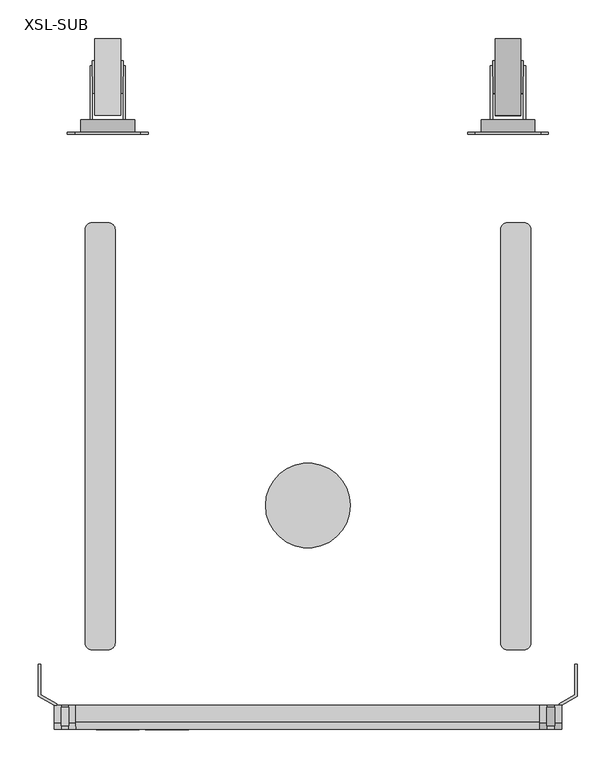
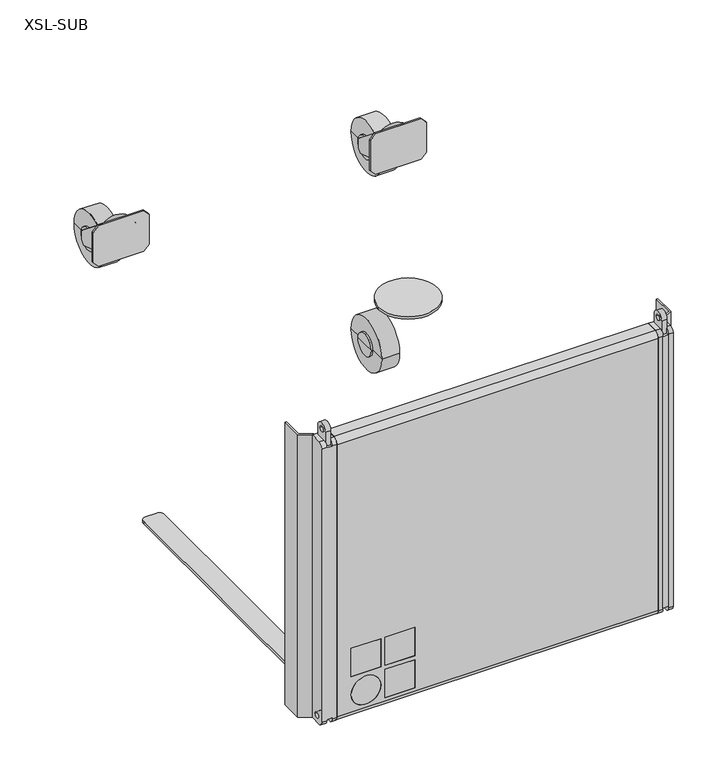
"""IFC4 building model written with IfcOpenShell, lengths in millimetres: proxy geometry, d&b SL-Series XSL-SUB : XSL-SUB."""

from ifc_helpers import new_model, si_unit, point, frame, frame_2d, origin, origin_with_axes, place, context, project, spatial, polyline, circle_curve, trimmed, segment, composite_curve, outline, extrude, source, transform, mapped, element, save
from ifc_brep_helpers import plane_surface, cylinder_surface, revolved_surface, advanced_brep


def xsl_sub_1e621e3c(model_context):
    return source(origin(), model_context, "Body", "SolidModel", [
        advanced_brep(
        [(2743.3232422, 736.9067763, 49.9678867), (2743.3232422, 836.9067763, 49.9678867), (2776.6767578, 836.9067763, 49.9678867), (2776.6767578, 736.9067763, 49.9678867), (2743.3232422, 765.493179, 49.9678867), (2743.3232422, 808.3203735, 49.9678867), (2740.0, 765.493179, 49.9678867), (2740.0, 808.3203735, 49.9678867), (2740.0, 786.9067763, 49.9678867), (2780.0, 765.493179, 49.9678867), (2780.0, 808.3203735, 49.9678867), (2780.0, 786.9067763, 49.9678867), (2776.6767578, 765.493179, 49.9678867), (2776.6767578, 808.3203735, 49.9678867)],
        [
            (0, 1, circle_curve(frame((2743.3232422, 786.9067763, 49.9678867), z_axis=(1.0, 0.0, 0.0), x_axis=(0.0, 1.0, 0.0)), 50.0)),
            (1, 2),
            (2, 3, circle_curve(frame((2776.6767578, 786.9067763, 49.9678867), z_axis=(-1.0, 0.0, 0.0), x_axis=(0.0, 1.0, 0.0)), 50.0)),
            (3, 0),
            (1, 0, circle_curve(frame((2743.3232422, 786.9067763, 49.9678867), z_axis=(1.0, 0.0, 0.0), x_axis=(0.0, 1.0, 0.0)), 50.0)),
            (3, 2, circle_curve(frame((2776.6767578, 786.9067763, 49.9678867), z_axis=(-1.0, 0.0, 0.0), x_axis=(0.0, 1.0, 0.0)), 50.0)),
            (4, 5, circle_curve(frame((2743.3232422, 786.9067763, 49.9678867), z_axis=(1.0, 0.0, 0.0), x_axis=(0.0, 1.0, 0.0)), 21.4135972)),
            (5, 1),
            (0, 4),
            (5, 4, circle_curve(frame((2743.3232422, 786.9067763, 49.9678867), z_axis=(1.0, 0.0, 0.0), x_axis=(0.0, 1.0, 0.0)), 21.4135972)),
            (6, 7, circle_curve(frame((2740.0, 786.9067763, 49.9678867), z_axis=(1.0, 0.0, 0.0), x_axis=(0.0, 1.0, 0.0)), 21.4135972)),
            (7, 5),
            (4, 6),
            (7, 6, circle_curve(frame((2740.0, 786.9067763, 49.9678867), z_axis=(1.0, 0.0, 0.0), x_axis=(0.0, 1.0, 0.0)), 21.4135972)),
            (8, 7),
            (6, 8),
            (9, 10, circle_curve(frame((2780.0, 786.9067763, 49.9678867), z_axis=(1.0, 0.0, 0.0), x_axis=(0.0, 1.0, 0.0)), 21.4135972)),
            (10, 11),
            (11, 9),
            (10, 9, circle_curve(frame((2780.0, 786.9067763, 49.9678867), z_axis=(1.0, 0.0, 0.0), x_axis=(0.0, 1.0, 0.0)), 21.4135972)),
            (12, 13, circle_curve(frame((2776.6767578, 786.9067763, 49.9678867), z_axis=(1.0, 0.0, 0.0), x_axis=(0.0, 1.0, 0.0)), 21.4135972)),
            (13, 10),
            (9, 12),
            (13, 12, circle_curve(frame((2776.6767578, 786.9067763, 49.9678867), z_axis=(1.0, 0.0, 0.0), x_axis=(0.0, 1.0, 0.0)), 21.4135972)),
            (2, 13),
            (12, 3),
        ],
        [
            cylinder_surface(frame((2717.0567457, 786.9067763, 49.9678867), z_axis=(-1.0, 0.0, 0.0), x_axis=(0.0, 1.0, 0.0)), 50.0),
            plane_surface(frame((2743.3232422, 786.9067763, 49.9678867), z_axis=(-1.0, 0.0, 0.0), x_axis=(0.0, 1.0, 0.0))),
            cylinder_surface(frame((2717.0567457, 786.9067763, 49.9678867), z_axis=(-1.0, 0.0, 0.0), x_axis=(0.0, 1.0, 0.0)), 21.4135972),
            plane_surface(frame((2740.0, 786.9067763, 49.9678867), z_axis=(-1.0, 0.0, 0.0), x_axis=(0.0, 1.0, 0.0))),
            plane_surface(frame((2780.0, 786.9067763, 49.9678867), z_axis=(1.0, 0.0, 0.0), x_axis=(0.0, 1.0, 0.0))),
            plane_surface(frame((2776.6767578, 786.9067763, 49.9678867), z_axis=(1.0, 0.0, 0.0), x_axis=(0.0, 1.0, 0.0))),
        ],
        [
            (0, [[1, 2, 3, 4]]),
            (0, [[5, -4, 6, -2]]),
            (1, [[7, 8, -1, 9]]),
            (1, [[10, -9, -5, -8]]),
            (2, [[11, 12, -7, 13]]),
            (2, [[14, -13, -10, -12]]),
            (3, [[15, -11, 16]]),
            (3, [[-16, -14, -15]]),
            (4, [[17, 18, 19]]),
            (4, [[20, -19, -18]]),
            (2, [[21, 22, -17, 23]]),
            (2, [[24, -23, -20, -22]]),
            (5, [[-3, 25, -21, 26]]),
            (5, [[-6, -26, -24, -25]]),
        ],
    ),
        advanced_brep(
        [(2275.0, 731.2505973, 480.499962), (2263.0, 731.2505973, 454.1181501), (2263.0, 731.2505973, 506.5781491), (2260.0, 731.2505973, 506.5781491), (2260.0, 731.2505973, 451.7771488), (2220.0, 731.2505973, 451.7771488), (2220.0, 731.2505973, 506.5781491), (2217.0, 731.2505973, 506.5781491), (2217.0, 731.2505973, 454.1181501), (2205.0, 731.2505973, 480.499962), (2205.0, 715.2505973, 480.499962), (2217.0, 715.2505973, 454.1181501), (2217.0, 715.2505973, 445.67524), (2220.0, 715.2505973, 445.67524), (2220.0, 715.2505973, 451.7771488), (2260.0, 715.2505973, 451.7771488), (2260.0, 715.2505973, 445.67524), (2263.0, 715.2505973, 445.67524), (2263.0, 715.2505973, 454.1181501), (2275.0, 715.2505973, 480.499962), (2263.0, 729.9505973, 445.67524), (2263.0, 794.4505973, 425.499962), (2263.0, 801.4505973, 432.499962), (2263.0, 801.4505973, 450.6264244), (2260.0, 801.4505973, 450.6264244), (2260.0, 801.4505973, 432.499962), (2260.0, 794.4505973, 425.499962), (2260.0, 729.9505973, 445.67524), (2217.0, 801.4505973, 450.6264244), (2217.0, 801.4505973, 432.499962), (2217.0, 794.4505973, 425.499962), (2217.0, 729.9505973, 445.67524), (2220.0, 729.9505973, 445.67524), (2220.0, 794.4505973, 425.499962), (2220.0, 801.4505973, 432.499962), (2220.0, 801.4505973, 450.6264244)],
        [
            (0, 1, circle_curve(frame((2240.0, 731.2505973, 480.499962), z_axis=(0.0, 1.0, 0.0), x_axis=(1.0, 0.0, 0.0)), 35.0)),
            (1, 2),
            (2, 3),
            (3, 4),
            (4, 5, circle_curve(frame((2240.0, 731.2505973, 480.499962), z_axis=(0.0, 1.0, 0.0), x_axis=(1.0, 0.0, 0.0)), 35.0)),
            (5, 6),
            (6, 7),
            (7, 8),
            (8, 9, circle_curve(frame((2240.0, 731.2505973, 480.499962), z_axis=(0.0, 1.0, 0.0), x_axis=(1.0, 0.0, 0.0)), 35.0)),
            (9, 0, circle_curve(frame((2240.0, 731.2505973, 480.499962), z_axis=(0.0, 1.0, 0.0), x_axis=(1.0, 0.0, 0.0)), 35.0)),
            (10, 11, circle_curve(frame((2240.0, 715.2505973, 480.499962), z_axis=(0.0, -1.0, 0.0), x_axis=(1.0, 0.0, 0.0)), 35.0)),
            (11, 12),
            (12, 13),
            (13, 14),
            (14, 15, circle_curve(frame((2240.0, 715.2505973, 480.499962), z_axis=(0.0, -1.0, 0.0), x_axis=(1.0, 0.0, 0.0)), 35.0)),
            (15, 16),
            (16, 17),
            (17, 18),
            (18, 19, circle_curve(frame((2240.0, 715.2505973, 480.499962), z_axis=(0.0, -1.0, 0.0), x_axis=(1.0, 0.0, 0.0)), 35.0)),
            (19, 10, circle_curve(frame((2240.0, 715.2505973, 480.499962), z_axis=(0.0, -1.0, 0.0), x_axis=(1.0, 0.0, 0.0)), 35.0)),
            (8, 11),
            (10, 9),
            (14, 5),
            (4, 15),
            (18, 1),
            (0, 19),
            (17, 20),
            (20, 21),
            (21, 22),
            (22, 23),
            (23, 2),
            (3, 24),
            (24, 25),
            (25, 26),
            (26, 27),
            (27, 16),
            (23, 24),
            (22, 25),
            (21, 26),
            (20, 27),
            (7, 28),
            (28, 29),
            (29, 30),
            (30, 31),
            (31, 12),
            (13, 32),
            (32, 33),
            (33, 34),
            (34, 35),
            (35, 6),
            (35, 28),
            (34, 29),
            (33, 30),
            (32, 31),
        ],
        [
            plane_surface(frame((2275.0, 731.2505973, 480.499962), z_axis=(0.0, 1.0, 0.0), x_axis=(0.0, 0.0, 1.0))),
            plane_surface(frame((2275.0, 715.2505973, 480.499962), z_axis=(0.0, -1.0, 0.0), x_axis=(0.0, 0.0, -1.0))),
            cylinder_surface(frame((2240.0, 715.2505973, 480.499962), z_axis=(0.0, 1.0, 0.0), x_axis=(1.0, 0.0, 0.0)), 35.0),
            plane_surface(frame((2263.0, 785.1202866, 463.6422228), z_axis=(1.0000000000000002, 0.0, 0.0), x_axis=(0.0, 0.7819992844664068, -0.6232793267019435))),
            plane_surface(frame((2260.0, 785.1202866, 463.6422228), z_axis=(-1.0000000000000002, 0.0, 0.0), x_axis=(0.0, -0.7819992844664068, 0.6232793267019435))),
            plane_surface(frame((2263.0, 731.2505973, 506.5781491), z_axis=(0.0, 0.6232793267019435, 0.7819992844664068), x_axis=(-1.0, 0.0, 0.0))),
            plane_surface(frame((2263.0, 801.4505973, 450.6264244), z_axis=(0.0, 1.0, 0.0), x_axis=(-1.0, 0.0, 0.0))),
            plane_surface(frame((2263.0, 801.4505973, 432.499962), z_axis=(0.0, 0.7071067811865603, -0.7071067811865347), x_axis=(-1.0, 0.0, 0.0))),
            plane_surface(frame((2263.0, 794.4505973, 425.499962), z_axis=(0.0, -0.29853148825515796, -0.9543997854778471), x_axis=(-1.0, 0.0, 0.0))),
            plane_surface(frame((2263.0, 729.9505973, 445.67524), z_axis=(0.0, 0.0, -1.0), x_axis=(-1.0, 0.0, 0.0))),
            plane_surface(frame((2217.0, 731.2505973, 506.5781491), z_axis=(-1.0, 0.0, 0.0), x_axis=(0.0, -1.0, 0.0))),
            plane_surface(frame((2220.0, 731.2505973, 506.5781491), z_axis=(1.0, 0.0, 0.0), x_axis=(0.0, 1.0, 0.0))),
            plane_surface(frame((2217.0, 801.4505973, 450.6264244), z_axis=(0.0, 0.6232793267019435, 0.7819992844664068), x_axis=(1.0, 0.0, 0.0))),
            plane_surface(frame((2217.0, 801.4505973, 432.499962), z_axis=(0.0, 1.0, 0.0), x_axis=(1.0, 0.0, 0.0))),
            plane_surface(frame((2217.0, 794.4505973, 425.499962), z_axis=(0.0, 0.7071067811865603, -0.7071067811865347), x_axis=(1.0, 0.0, 0.0))),
            plane_surface(frame((2217.0, 729.9505973, 445.67524), z_axis=(0.0, -0.29853148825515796, -0.9543997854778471), x_axis=(1.0, 0.0, 0.0))),
            plane_surface(frame((2217.0, 715.2505973, 445.67524), z_axis=(0.0, 0.0, -1.0), x_axis=(1.0, 0.0, 0.0))),
        ],
        [
            (0, [[1, 2, 3, 4, 5, 6, 7, 8, 9, 10]]),
            (1, [[11, 12, 13, 14, 15, 16, 17, 18, 19, 20]]),
            (2, [[-9, 21, -11, 22]]),
            (2, [[-15, 23, -5, 24]]),
            (2, [[-19, 25, -1, 26]]),
            (2, [[-22, -20, -26, -10]]),
            (3, [[-2, -25, -18, 27, 28, 29, 30, 31]]),
            (4, [[-16, -24, -4, 32, 33, 34, 35, 36]]),
            (5, [[37, -32, -3, -31]]),
            (6, [[38, -33, -37, -30]]),
            (7, [[39, -34, -38, -29]]),
            (8, [[40, -35, -39, -28]]),
            (9, [[-17, -36, -40, -27]]),
            (10, [[-12, -21, -8, 41, 42, 43, 44, 45]]),
            (11, [[-6, -23, -14, 46, 47, 48, 49, 50]]),
            (12, [[-7, -50, 51, -41]]),
            (13, [[-51, -49, 52, -42]]),
            (14, [[-52, -48, 53, -43]]),
            (15, [[-53, -47, 54, -44]]),
            (16, [[-54, -46, -13, -45]]),
        ],
    ),
        extrude(outline(polyline([(520.5, 2197.500038), (510.499962, 2187.5), (450.499962, 2187.5), (440.499924, 2197.500038), (440.499924, 2282.499962), (450.499962, 2292.5), (510.499962, 2292.5), (520.5, 2282.499962), (520.5, 2197.500038)])), frame((0.0, 712.2505973, 0.0), z_axis=(0.0, 1.0, 0.0), x_axis=(0.0, 0.0, 1.0)), (0.0, 0.0, 1.0), 3.0),
        advanced_brep(
        [(2256.6767578, 736.9067763, 440.9678867), (2223.3232422, 736.9067763, 440.9678867), (2223.3232422, 836.9067763, 440.9678867), (2256.6767578, 836.9067763, 440.9678867), (2256.6767578, 765.493179, 440.9678867), (2256.6767578, 808.3203735, 440.9678867), (2260.0, 765.493179, 440.9678867), (2260.0, 808.3203735, 440.9678867), (2260.0, 786.9067763, 440.9678867), (2220.0, 765.493179, 440.9678867), (2220.0, 786.9067763, 440.9678867), (2220.0, 808.3203735, 440.9678867), (2223.3232422, 765.493179, 440.9678867), (2223.3232422, 808.3203735, 440.9678867)],
        [
            (0, 1),
            (1, 2, circle_curve(frame((2223.3232422, 786.9067763, 440.9678867), z_axis=(1.0, 0.0, 0.0), x_axis=(0.0, 1.0, 0.0)), 50.0)),
            (2, 3),
            (3, 0, circle_curve(frame((2256.6767578, 786.9067763, 440.9678867), z_axis=(-1.0, 0.0, 0.0), x_axis=(0.0, 1.0, 0.0)), 50.0)),
            (2, 1, circle_curve(frame((2223.3232422, 786.9067763, 440.9678867), z_axis=(1.0, 0.0, 0.0), x_axis=(0.0, 1.0, 0.0)), 50.0)),
            (0, 3, circle_curve(frame((2256.6767578, 786.9067763, 440.9678867), z_axis=(-1.0, 0.0, 0.0), x_axis=(0.0, 1.0, 0.0)), 50.0)),
            (4, 0),
            (3, 5),
            (5, 4, circle_curve(frame((2256.6767578, 786.9067763, 440.9678867), z_axis=(-1.0, 0.0, 0.0), x_axis=(0.0, 1.0, 0.0)), 21.4135972)),
            (4, 5, circle_curve(frame((2256.6767578, 786.9067763, 440.9678867), z_axis=(-1.0, 0.0, 0.0), x_axis=(0.0, 1.0, 0.0)), 21.4135972)),
            (6, 4),
            (5, 7),
            (7, 6, circle_curve(frame((2260.0, 786.9067763, 440.9678867), z_axis=(-1.0, 0.0, 0.0), x_axis=(0.0, 1.0, 0.0)), 21.4135972)),
            (6, 7, circle_curve(frame((2260.0, 786.9067763, 440.9678867), z_axis=(-1.0, 0.0, 0.0), x_axis=(0.0, 1.0, 0.0)), 21.4135972)),
            (8, 6),
            (7, 8),
            (9, 10),
            (10, 11),
            (11, 9, circle_curve(frame((2220.0, 786.9067763, 440.9678867), z_axis=(-1.0, 0.0, 0.0), x_axis=(0.0, 1.0, 0.0)), 21.4135972)),
            (9, 11, circle_curve(frame((2220.0, 786.9067763, 440.9678867), z_axis=(-1.0, 0.0, 0.0), x_axis=(0.0, 1.0, 0.0)), 21.4135972)),
            (12, 9),
            (11, 13),
            (13, 12, circle_curve(frame((2223.3232422, 786.9067763, 440.9678867), z_axis=(-1.0, 0.0, 0.0), x_axis=(0.0, 1.0, 0.0)), 21.4135972)),
            (12, 13, circle_curve(frame((2223.3232422, 786.9067763, 440.9678867), z_axis=(-1.0, 0.0, 0.0), x_axis=(0.0, 1.0, 0.0)), 21.4135972)),
            (1, 12),
            (13, 2),
        ],
        [
            cylinder_surface(frame((2282.9432543, 786.9067763, 440.9678867), z_axis=(1.0, 0.0, 0.0), x_axis=(0.0, 1.0, 0.0)), 50.0),
            plane_surface(frame((2256.6767578, 786.9067763, 440.9678867), z_axis=(1.0, 0.0, 0.0), x_axis=(0.0, 1.0, 0.0))),
            cylinder_surface(frame((2282.9432543, 786.9067763, 440.9678867), z_axis=(1.0, 0.0, 0.0), x_axis=(0.0, 1.0, 0.0)), 21.4135972),
            plane_surface(frame((2260.0, 786.9067763, 440.9678867), z_axis=(1.0, 0.0, 0.0), x_axis=(0.0, 1.0, 0.0))),
            plane_surface(frame((2220.0, 786.9067763, 440.9678867), z_axis=(-1.0, 0.0, 0.0), x_axis=(0.0, 1.0, 0.0))),
            plane_surface(frame((2223.3232422, 786.9067763, 440.9678867), z_axis=(-1.0, 0.0, 0.0), x_axis=(0.0, 1.0, 0.0))),
        ],
        [
            (0, [[1, 2, 3, 4]]),
            (0, [[-3, 5, -1, 6]]),
            (1, [[7, -4, 8, 9]]),
            (1, [[-8, -6, -7, 10]]),
            (2, [[11, -9, 12, 13]]),
            (2, [[-12, -10, -11, 14]]),
            (3, [[15, -13, 16]]),
            (3, [[-16, -14, -15]]),
            (4, [[17, 18, 19]]),
            (4, [[-18, -17, 20]]),
            (2, [[21, -19, 22, 23]]),
            (2, [[-22, -20, -21, 24]]),
            (5, [[25, -23, 26, -2]]),
            (5, [[-26, -24, -25, -5]]),
        ],
    ),
        advanced_brep(
        [(2725.0, 731.2505973, 480.499962), (2795.0, 731.2505973, 480.499962), (2783.0, 731.2505973, 454.1181501), (2783.0, 731.2505973, 506.5781491), (2780.0, 731.2505973, 506.5781491), (2780.0, 731.2505973, 451.7771488), (2740.0, 731.2505973, 451.7771488), (2740.0, 731.2505973, 506.5781491), (2737.0, 731.2505973, 506.5781491), (2737.0, 731.2505973, 454.1181501), (2795.0, 715.2505973, 480.499962), (2725.0, 715.2505973, 480.499962), (2737.0, 715.2505973, 454.1181501), (2737.0, 715.2505973, 445.67524), (2740.0, 715.2505973, 445.67524), (2740.0, 715.2505973, 451.7771488), (2780.0, 715.2505973, 451.7771488), (2780.0, 715.2505973, 445.67524), (2783.0, 715.2505973, 445.67524), (2783.0, 715.2505973, 454.1181501), (2737.0, 801.4505973, 450.6264244), (2737.0, 801.4505973, 432.499962), (2737.0, 794.4505973, 425.499962), (2737.0, 729.9505973, 445.67524), (2740.0, 729.9505973, 445.67524), (2740.0, 794.4505973, 425.499962), (2740.0, 801.4505973, 432.499962), (2740.0, 801.4505973, 450.6264244), (2783.0, 729.9505973, 445.67524), (2783.0, 794.4505973, 425.499962), (2783.0, 801.4505973, 432.499962), (2783.0, 801.4505973, 450.6264244), (2780.0, 801.4505973, 450.6264244), (2780.0, 801.4505973, 432.499962), (2780.0, 794.4505973, 425.499962), (2780.0, 729.9505973, 445.67524)],
        [
            (0, 1, circle_curve(frame((2760.0, 731.2505973, 480.499962), z_axis=(0.0, 1.0, 0.0), x_axis=(-1.0, 0.0, 0.0)), 35.0)),
            (1, 2, circle_curve(frame((2760.0, 731.2505973, 480.499962), z_axis=(0.0, 1.0, 0.0), x_axis=(-1.0, 0.0, 0.0)), 35.0)),
            (2, 3),
            (3, 4),
            (4, 5),
            (5, 6, circle_curve(frame((2760.0, 731.2505973, 480.499962), z_axis=(0.0, 1.0, 0.0), x_axis=(-1.0, 0.0, 0.0)), 35.0)),
            (6, 7),
            (7, 8),
            (8, 9),
            (9, 0, circle_curve(frame((2760.0, 731.2505973, 480.499962), z_axis=(0.0, 1.0, 0.0), x_axis=(-1.0, 0.0, 0.0)), 35.0)),
            (10, 11, circle_curve(frame((2760.0, 715.2505973, 480.499962), z_axis=(0.0, -1.0, 0.0), x_axis=(-1.0, 0.0, 0.0)), 35.0)),
            (11, 12, circle_curve(frame((2760.0, 715.2505973, 480.499962), z_axis=(0.0, -1.0, 0.0), x_axis=(-1.0, 0.0, 0.0)), 35.0)),
            (12, 13),
            (13, 14),
            (14, 15),
            (15, 16, circle_curve(frame((2760.0, 715.2505973, 480.499962), z_axis=(0.0, -1.0, 0.0), x_axis=(-1.0, 0.0, 0.0)), 35.0)),
            (16, 17),
            (17, 18),
            (18, 19),
            (19, 10, circle_curve(frame((2760.0, 715.2505973, 480.499962), z_axis=(0.0, -1.0, 0.0), x_axis=(-1.0, 0.0, 0.0)), 35.0)),
            (1, 10),
            (19, 2),
            (15, 6),
            (5, 16),
            (11, 0),
            (9, 12),
            (8, 20),
            (20, 21),
            (21, 22),
            (22, 23),
            (23, 13),
            (14, 24),
            (24, 25),
            (25, 26),
            (26, 27),
            (27, 7),
            (27, 20),
            (26, 21),
            (25, 22),
            (24, 23),
            (18, 28),
            (28, 29),
            (29, 30),
            (30, 31),
            (31, 3),
            (4, 32),
            (32, 33),
            (33, 34),
            (34, 35),
            (35, 17),
            (31, 32),
            (30, 33),
            (29, 34),
            (28, 35),
        ],
        [
            plane_surface(frame((2725.0, 731.2505973, 480.499962), z_axis=(0.0, 1.0, 0.0), x_axis=(0.0, 0.0, 1.0))),
            plane_surface(frame((2725.0, 715.2505973, 480.499962), z_axis=(0.0, -1.0, 0.0), x_axis=(0.0, 0.0, -1.0))),
            cylinder_surface(frame((2760.0, 715.2505973, 480.499962), z_axis=(0.0, 1.0, 0.0), x_axis=(-1.0, 0.0, 0.0)), 35.0),
            plane_surface(frame((2737.0, 785.1202866, 463.6422228), z_axis=(-1.0000000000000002, 0.0, 0.0), x_axis=(0.0, 0.7819992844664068, -0.6232793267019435))),
            plane_surface(frame((2740.0, 785.1202866, 463.6422228), z_axis=(1.0000000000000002, 0.0, 0.0), x_axis=(0.0, -0.7819992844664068, 0.6232793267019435))),
            plane_surface(frame((2737.0, 731.2505973, 506.5781491), z_axis=(0.0, 0.6232793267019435, 0.7819992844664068), x_axis=(1.0, 0.0, 0.0))),
            plane_surface(frame((2737.0, 801.4505973, 450.6264244), z_axis=(0.0, 1.0, 0.0), x_axis=(1.0, 0.0, 0.0))),
            plane_surface(frame((2737.0, 801.4505973, 432.499962), z_axis=(0.0, 0.7071067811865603, -0.7071067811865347), x_axis=(1.0, 0.0, 0.0))),
            plane_surface(frame((2737.0, 794.4505973, 425.499962), z_axis=(0.0, -0.29853148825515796, -0.9543997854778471), x_axis=(1.0, 0.0, 0.0))),
            plane_surface(frame((2737.0, 729.9505973, 445.67524), z_axis=(0.0, 0.0, -1.0), x_axis=(1.0, 0.0, 0.0))),
            plane_surface(frame((2783.0, 731.2505973, 506.5781491), z_axis=(1.0, 0.0, 0.0), x_axis=(0.0, -1.0, 0.0))),
            plane_surface(frame((2780.0, 731.2505973, 506.5781491), z_axis=(-1.0, 0.0, 0.0), x_axis=(0.0, 1.0, 0.0))),
            plane_surface(frame((2783.0, 801.4505973, 450.6264244), z_axis=(0.0, 0.6232793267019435, 0.7819992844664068), x_axis=(-1.0, 0.0, 0.0))),
            plane_surface(frame((2783.0, 801.4505973, 432.499962), z_axis=(0.0, 1.0, 0.0), x_axis=(-1.0, 0.0, 0.0))),
            plane_surface(frame((2783.0, 794.4505973, 425.499962), z_axis=(0.0, 0.7071067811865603, -0.7071067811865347), x_axis=(-1.0, 0.0, 0.0))),
            plane_surface(frame((2783.0, 729.9505973, 445.67524), z_axis=(0.0, -0.29853148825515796, -0.9543997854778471), x_axis=(-1.0, 0.0, 0.0))),
            plane_surface(frame((2783.0, 715.2505973, 445.67524), z_axis=(0.0, 0.0, -1.0), x_axis=(-1.0, 0.0, 0.0))),
        ],
        [
            (0, [[1, 2, 3, 4, 5, 6, 7, 8, 9, 10]]),
            (1, [[11, 12, 13, 14, 15, 16, 17, 18, 19, 20]]),
            (2, [[21, -20, 22, -2]]),
            (2, [[23, -6, 24, -16]]),
            (2, [[25, -10, 26, -12]]),
            (2, [[-1, -25, -11, -21]]),
            (3, [[27, 28, 29, 30, 31, -13, -26, -9]]),
            (4, [[32, 33, 34, 35, 36, -7, -23, -15]]),
            (5, [[-27, -8, -36, 37]]),
            (6, [[-28, -37, -35, 38]]),
            (7, [[-29, -38, -34, 39]]),
            (8, [[-30, -39, -33, 40]]),
            (9, [[-31, -40, -32, -14]]),
            (10, [[41, 42, 43, 44, 45, -3, -22, -19]]),
            (11, [[46, 47, 48, 49, 50, -17, -24, -5]]),
            (12, [[-45, 51, -46, -4]]),
            (13, [[-44, 52, -47, -51]]),
            (14, [[-43, 53, -48, -52]]),
            (15, [[-42, 54, -49, -53]]),
            (16, [[-41, -18, -50, -54]]),
        ],
    ),
        extrude(outline(polyline([(520.5, 2802.499962), (520.5, 2717.500038), (510.499962, 2707.5), (450.499962, 2707.5), (440.499924, 2717.500038), (440.499924, 2802.499962), (450.499962, 2812.5), (510.499962, 2812.5), (520.5, 2802.499962)])), frame((0.0, 712.2505973, 0.0), z_axis=(0.0, 1.0, 0.0), x_axis=(0.0, 0.0, 1.0)), (0.0, 0.0, 1.0), 3.0),
        advanced_brep(
        [(2743.3232422, 736.9067763, 440.9678867), (2743.3232422, 836.9067763, 440.9678867), (2776.6767578, 836.9067763, 440.9678867), (2776.6767578, 736.9067763, 440.9678867), (2743.3232422, 765.493179, 440.9678867), (2743.3232422, 808.3203735, 440.9678867), (2740.0, 765.493179, 440.9678867), (2740.0, 808.3203735, 440.9678867), (2740.0, 786.9067763, 440.9678867), (2780.0, 765.493179, 440.9678867), (2780.0, 808.3203735, 440.9678867), (2780.0, 786.9067763, 440.9678867), (2776.6767578, 765.493179, 440.9678867), (2776.6767578, 808.3203735, 440.9678867)],
        [
            (0, 1, circle_curve(frame((2743.3232422, 786.9067763, 440.9678867), z_axis=(1.0, 0.0, 0.0), x_axis=(0.0, 1.0, 0.0)), 50.0)),
            (1, 2),
            (2, 3, circle_curve(frame((2776.6767578, 786.9067763, 440.9678867), z_axis=(-1.0, 0.0, 0.0), x_axis=(0.0, 1.0, 0.0)), 50.0)),
            (3, 0),
            (1, 0, circle_curve(frame((2743.3232422, 786.9067763, 440.9678867), z_axis=(1.0, 0.0, 0.0), x_axis=(0.0, 1.0, 0.0)), 50.0)),
            (3, 2, circle_curve(frame((2776.6767578, 786.9067763, 440.9678867), z_axis=(-1.0, 0.0, 0.0), x_axis=(0.0, 1.0, 0.0)), 50.0)),
            (4, 5, circle_curve(frame((2743.3232422, 786.9067763, 440.9678867), z_axis=(1.0, 0.0, 0.0), x_axis=(0.0, 1.0, 0.0)), 21.4135972)),
            (5, 1),
            (0, 4),
            (5, 4, circle_curve(frame((2743.3232422, 786.9067763, 440.9678867), z_axis=(1.0, 0.0, 0.0), x_axis=(0.0, 1.0, 0.0)), 21.4135972)),
            (6, 7, circle_curve(frame((2740.0, 786.9067763, 440.9678867), z_axis=(1.0, 0.0, 0.0), x_axis=(0.0, 1.0, 0.0)), 21.4135972)),
            (7, 5),
            (4, 6),
            (7, 6, circle_curve(frame((2740.0, 786.9067763, 440.9678867), z_axis=(1.0, 0.0, 0.0), x_axis=(0.0, 1.0, 0.0)), 21.4135972)),
            (8, 7),
            (6, 8),
            (9, 10, circle_curve(frame((2780.0, 786.9067763, 440.9678867), z_axis=(1.0, 0.0, 0.0), x_axis=(0.0, 1.0, 0.0)), 21.4135972)),
            (10, 11),
            (11, 9),
            (10, 9, circle_curve(frame((2780.0, 786.9067763, 440.9678867), z_axis=(1.0, 0.0, 0.0), x_axis=(0.0, 1.0, 0.0)), 21.4135972)),
            (12, 13, circle_curve(frame((2776.6767578, 786.9067763, 440.9678867), z_axis=(1.0, 0.0, 0.0), x_axis=(0.0, 1.0, 0.0)), 21.4135972)),
            (13, 10),
            (9, 12),
            (13, 12, circle_curve(frame((2776.6767578, 786.9067763, 440.9678867), z_axis=(1.0, 0.0, 0.0), x_axis=(0.0, 1.0, 0.0)), 21.4135972)),
            (2, 13),
            (12, 3),
        ],
        [
            cylinder_surface(frame((2717.0567457, 786.9067763, 440.9678867), z_axis=(-1.0, 0.0, 0.0), x_axis=(0.0, 1.0, 0.0)), 50.0),
            plane_surface(frame((2743.3232422, 786.9067763, 440.9678867), z_axis=(-1.0, 0.0, 0.0), x_axis=(0.0, 1.0, 0.0))),
            cylinder_surface(frame((2717.0567457, 786.9067763, 440.9678867), z_axis=(-1.0, 0.0, 0.0), x_axis=(0.0, 1.0, 0.0)), 21.4135972),
            plane_surface(frame((2740.0, 786.9067763, 440.9678867), z_axis=(-1.0, 0.0, 0.0), x_axis=(0.0, 1.0, 0.0))),
            plane_surface(frame((2780.0, 786.9067763, 440.9678867), z_axis=(1.0, 0.0, 0.0), x_axis=(0.0, 1.0, 0.0))),
            plane_surface(frame((2776.6767578, 786.9067763, 440.9678867), z_axis=(1.0, 0.0, 0.0), x_axis=(0.0, 1.0, 0.0))),
        ],
        [
            (0, [[1, 2, 3, 4]]),
            (0, [[5, -4, 6, -2]]),
            (1, [[7, 8, -1, 9]]),
            (1, [[10, -9, -5, -8]]),
            (2, [[11, 12, -7, 13]]),
            (2, [[14, -13, -10, -12]]),
            (3, [[15, -11, 16]]),
            (3, [[-16, -14, -15]]),
            (4, [[17, 18, 19]]),
            (4, [[20, -19, -18]]),
            (2, [[21, 22, -17, 23]]),
            (2, [[24, -23, -20, -22]]),
            (5, [[-3, 25, -21, 26]]),
            (5, [[-6, -26, -24, -25]]),
        ],
    ),
        extrude(outline(polyline([(2810.5, -60.7494027), (2810.5, -29.2494027), (2820.5, -29.2494027), (2820.5, -60.7494027), (2810.5, -60.7494027)])), frame((0.0, 0.0, 16.6), z_axis=(0.0, 0.0, 1.0), x_axis=(1.0, 0.0, 0.0)), (0.0, 0.0, 1.0), 538.4),
        extrude(outline(composite_curve([segment(polyline([(-29.2494027, 565.0), (-29.2494027, 5.0), (-51.7494027, 5.0)]), True, "CONTINUOUS"), segment(trimmed(circle_curve(frame_2d((-51.7494027, 14.0)), 9.0), [point((-51.7494027, 5.0))], [point((-60.7494027, 14.0))], False, "CARTESIAN"), True, "CONTINUOUS"), segment(polyline([(-60.7494027, 14.0), (-60.7494027, 556.0)]), True, "CONTINUOUS"), segment(trimmed(circle_curve(frame_2d((-51.7494027, 556.0)), 9.0), [point((-60.7494027, 556.0))], [point((-51.7494027, 565.0))], False, "CARTESIAN"), True, "CONTINUOUS"), segment(polyline([(-51.7494027, 565.0), (-29.2494027, 565.0)]), True, "CONTINUOUS")], self_intersect=False)), frame((2801.5, 0.0, 0.0), z_axis=(1.0, 0.0, 0.0), x_axis=(0.0, 1.0, 0.0)), (0.0, 0.0, 1.0), 9.0),
        extrude(outline(composite_curve([segment(polyline([(-29.2494027, 565.0), (-29.2494027, 5.0), (-51.7494027, 5.0)]), True, "CONTINUOUS"), segment(trimmed(circle_curve(frame_2d((-51.7494027, 14.0)), 9.0), [point((-51.7494027, 5.0))], [point((-60.7494027, 14.0))], False, "CARTESIAN"), True, "CONTINUOUS"), segment(polyline([(-60.7494027, 14.0), (-60.7494027, 556.0)]), True, "CONTINUOUS"), segment(trimmed(circle_curve(frame_2d((-51.7494027, 556.0)), 9.0), [point((-60.7494027, 556.0))], [point((-51.7494027, 565.0))], False, "CARTESIAN"), True, "CONTINUOUS"), segment(polyline([(-51.7494027, 565.0), (-29.2494027, 565.0)]), True, "CONTINUOUS")], self_intersect=False), holes=[composite_curve([segment(trimmed(circle_curve(frame_2d((-43.9994027, 18.5163859)), 5.2), [point((-49.1994027, 18.5163859))], [point((-38.7994027, 18.5163859))], True, "CARTESIAN"), True, "CONTINUOUS"), segment(trimmed(circle_curve(frame_2d((-43.9994027, 18.5163859)), 5.2), [point((-38.7994027, 18.5163859))], [point((-49.1994027, 18.5163859))], True, "CARTESIAN"), True, "CONTINUOUS")], self_intersect=False)]), frame((2820.5, 0.0, 0.0), z_axis=(1.0, 0.0, 0.0), x_axis=(0.0, 1.0, 0.0)), (0.0, 0.0, 1.0), 9.0),
        extrude(outline(polyline([(2153.0, 24.2505973), (2153.0, -15.6816714), (2173.5, -27.5173519), (2173.5, -29.2494027), (2170.5, -29.2494027), (2150.0, -17.4137222), (2150.0, 24.2505973), (2153.0, 24.2505973)])), frame((0.0, 0.0, 5.0), z_axis=(0.0, 0.0, 1.0), x_axis=(1.0, 0.0, 0.0)), (0.0, 0.0, 1.0), 560.0),
        extrude(outline(polyline([(2847.0, 24.2505973), (2850.0, 24.2505973), (2850.0, -17.4137222), (2829.5, -29.2494027), (2826.5, -29.2494027), (2826.5, -27.5173519), (2847.0, -15.6816714), (2847.0, 24.2505973)])), frame((0.0, 0.0, 5.0), z_axis=(0.0, 0.0, 1.0), x_axis=(1.0, 0.0, 0.0)), (0.0, 0.0, 1.0), 560.0),
        extrude(outline(composite_curve([segment(trimmed(circle_curve(frame_2d((-43.9994027, 582.8033696)), 12.0), [point((-55.9994027, 582.8033696))], [point((-31.9994027, 582.8033696))], False, "CARTESIAN"), True, "CONTINUOUS"), segment(polyline([(-31.9994027, 582.8033696), (-31.9994027, 555.0), (-55.9994027, 555.0), (-55.9994027, 582.8033696)]), True, "CONTINUOUS")], self_intersect=False), holes=[composite_curve([segment(trimmed(circle_curve(frame_2d((-43.9994027, 582.8033696)), 5.15), [point((-49.1494027, 582.8033696))], [point((-38.8494027, 582.8033696))], True, "CARTESIAN"), True, "CONTINUOUS"), segment(trimmed(circle_curve(frame_2d((-43.9994027, 582.8033696)), 5.15), [point((-38.8494027, 582.8033696))], [point((-49.1494027, 582.8033696))], True, "CARTESIAN"), True, "CONTINUOUS")], self_intersect=False)]), frame((2810.5, 0.0, 0.0), z_axis=(1.0, 0.0, 0.0), x_axis=(0.0, 1.0, 0.0)), (0.0, 0.0, 1.0), 10.0),
        extrude(outline(composite_curve([segment(trimmed(circle_curve(frame_2d((-43.9994027, 582.8033696)), 12.0), [point((-55.9994027, 582.8033696))], [point((-31.9994027, 582.8033696))], False, "CARTESIAN"), True, "CONTINUOUS"), segment(polyline([(-31.9994027, 582.8033696), (-31.9994027, 555.0), (-55.9994027, 555.0), (-55.9994027, 582.8033696)]), True, "CONTINUOUS")], self_intersect=False), holes=[composite_curve([segment(trimmed(circle_curve(frame_2d((-43.9994027, 582.8033696)), 5.15), [point((-49.1494027, 582.8033696))], [point((-38.8494027, 582.8033696))], True, "CARTESIAN"), True, "CONTINUOUS"), segment(trimmed(circle_curve(frame_2d((-43.9994027, 582.8033696)), 5.15), [point((-38.8494027, 582.8033696))], [point((-49.1494027, 582.8033696))], True, "CARTESIAN"), True, "CONTINUOUS")], self_intersect=False)]), frame((2179.5, 0.0, 0.0), z_axis=(1.0, 0.0, 0.0), x_axis=(0.0, 1.0, 0.0)), (0.0, 0.0, 1.0), 10.0),
        advanced_brep(
        [(2281.0, -50.7494027, 141.5), (2225.0, -50.7494027, 141.5), (2225.0, -50.7494027, 85.5), (2281.0, -50.7494027, 85.5), (2345.0, -50.7494027, 141.5), (2289.0, -50.7494027, 141.5), (2289.0, -50.7494027, 85.5), (2345.0, -50.7494027, 85.5), (2345.0, -50.7494027, 77.5), (2289.0, -50.7494027, 77.5), (2289.0, -50.7494027, 21.5), (2345.0, -50.7494027, 21.5), (2225.0, -50.7494027, 49.5), (2281.0, -50.7494027, 49.5), (2281.0, -60.7494027, 85.5), (2281.0, -60.7494027, 141.5), (2225.0, -60.7494027, 85.5), (2225.0, -60.7494027, 141.5), (2345.0, -60.7494027, 85.5), (2345.0, -60.7494027, 141.5), (2289.0, -60.7494027, 85.5), (2289.0, -60.7494027, 141.5), (2345.0, -60.7494027, 21.5), (2345.0, -60.7494027, 77.5), (2289.0, -60.7494027, 21.5), (2289.0, -60.7494027, 77.5), (2281.0, -60.7494027, 49.5), (2225.0, -60.7494027, 49.5), (2801.5, -29.2494027, 5.0), (2801.5, -29.2494027, 565.0), (2801.5, -50.7494027, 565.0), (2801.5, -60.7494027, 555.0), (2801.5, -60.7494027, 15.0), (2801.5, -50.7494027, 5.0), (2198.5, -29.2494027, 5.0), (2198.5, -50.7494027, 5.0), (2198.5, -60.7494027, 15.0), (2198.5, -60.7494027, 555.0), (2198.5, -50.7494027, 565.0), (2198.5, -29.2494027, 565.0)],
        [
            (0, 1),
            (1, 2),
            (2, 3),
            (3, 0),
            (4, 5),
            (5, 6),
            (6, 7),
            (7, 4),
            (8, 9),
            (9, 10),
            (10, 11),
            (11, 8),
            (12, 13, circle_curve(frame((2253.0, -50.7494027, 49.5), z_axis=(0.0, -1.0, 0.0), x_axis=(1.0, 0.0, 0.0)), 28.0)),
            (13, 12, circle_curve(frame((2253.0, -50.7494027, 49.5), z_axis=(0.0, -1.0, 0.0), x_axis=(1.0, 0.0, 0.0)), 28.0)),
            (3, 14),
            (14, 15),
            (15, 0),
            (2, 16),
            (16, 14),
            (1, 17),
            (17, 16),
            (15, 17),
            (7, 18),
            (18, 19),
            (19, 4),
            (6, 20),
            (20, 18),
            (5, 21),
            (21, 20),
            (19, 21),
            (11, 22),
            (22, 23),
            (23, 8),
            (10, 24),
            (24, 22),
            (9, 25),
            (25, 24),
            (23, 25),
            (13, 26),
            (26, 27, circle_curve(frame((2253.0, -60.7494027, 49.5), z_axis=(0.0, -1.0, 0.0), x_axis=(1.0, 0.0, 0.0)), 28.0)),
            (27, 12),
            (27, 26, circle_curve(frame((2253.0, -60.7494027, 49.5), z_axis=(0.0, -1.0, 0.0), x_axis=(1.0, 0.0, 0.0)), 28.0)),
            (28, 29),
            (29, 30),
            (30, 31, circle_curve(frame((2801.5, -50.7494027, 555.0), z_axis=(1.0, 0.0, 0.0), x_axis=(0.0, 1.0, 0.0)), 10.0)),
            (31, 32),
            (32, 33, circle_curve(frame((2801.5, -50.7494027, 15.0), z_axis=(1.0, 0.0, 0.0), x_axis=(0.0, 1.0, 0.0)), 10.0)),
            (33, 28),
            (34, 35),
            (35, 36, circle_curve(frame((2198.5, -50.7494027, 15.0), z_axis=(-1.0, 0.0, 0.0), x_axis=(0.0, 1.0, 0.0)), 10.0)),
            (36, 37),
            (37, 38, circle_curve(frame((2198.5, -50.7494027, 555.0), z_axis=(-1.0, 0.0, 0.0), x_axis=(0.0, 1.0, 0.0)), 10.0)),
            (38, 39),
            (39, 34),
            (28, 34),
            (39, 29),
            (38, 30),
            (37, 31),
            (36, 32),
            (35, 33),
        ],
        [
            plane_surface(frame((2281.0, -50.7494027, 131.0), z_axis=(0.0, -1.0, 0.0), x_axis=(0.0, 0.0, -1.0))),
            plane_surface(frame((2281.0, -50.7494027, 141.5), z_axis=(-1.0, 0.0, 0.0), x_axis=(0.0, -1.0, 0.0))),
            plane_surface(frame((2281.0, -50.7494027, 85.5), z_axis=(0.0, 0.0, 1.0), x_axis=(0.0, -1.0, 0.0))),
            plane_surface(frame((2225.0, -50.7494027, 85.5), z_axis=(1.0, 0.0, 0.0), x_axis=(0.0, -1.0, 0.0))),
            plane_surface(frame((2225.0, -50.7494027, 141.5), z_axis=(0.0, 0.0, -1.0), x_axis=(0.0, -1.0, 0.0))),
            plane_surface(frame((2345.0, -50.7494027, 141.5), z_axis=(-1.0, 0.0, 0.0), x_axis=(0.0, -1.0, 0.0))),
            plane_surface(frame((2345.0, -50.7494027, 85.5), z_axis=(0.0, 0.0, 1.0), x_axis=(0.0, -1.0, 0.0))),
            plane_surface(frame((2289.0, -50.7494027, 85.5), z_axis=(1.0, 0.0, 0.0), x_axis=(0.0, -1.0, 0.0))),
            plane_surface(frame((2289.0, -50.7494027, 141.5), z_axis=(0.0, 0.0, -1.0), x_axis=(0.0, -1.0, 0.0))),
            plane_surface(frame((2345.0, -50.7494027, 77.5), z_axis=(-1.0, 0.0, 0.0), x_axis=(0.0, -1.0, 0.0))),
            plane_surface(frame((2345.0, -50.7494027, 21.5), z_axis=(0.0, 0.0, 1.0), x_axis=(0.0, -1.0, 0.0))),
            plane_surface(frame((2289.0, -50.7494027, 21.5), z_axis=(1.0, 0.0, 0.0), x_axis=(0.0, -1.0, 0.0))),
            plane_surface(frame((2289.0, -50.7494027, 77.5), z_axis=(0.0, 0.0, -1.0), x_axis=(0.0, -1.0, 0.0))),
            revolved_surface(polyline([(2281.0, -50.7494027, 49.5), (2281.0, -60.7494027, 49.5)]), (2253.0, -60.7494027, 49.5), (0.0, 1.0, 0.0)),
            plane_surface(frame((2801.5, -29.2494027, 89.9836141), z_axis=(1.0, 0.0, 0.0), x_axis=(0.0, 0.0, 1.0))),
            plane_surface(frame((2198.5, -29.2494027, 89.9836141), z_axis=(-1.0, 0.0, 0.0), x_axis=(0.0, 0.0, -1.0))),
            plane_surface(frame((2801.5, -29.2494027, 5.0), z_axis=(0.0, 1.0, 0.0), x_axis=(-1.0, 0.0, 0.0))),
            plane_surface(frame((2801.5, -29.2494027, 565.0), z_axis=(0.0, 0.0, 1.0), x_axis=(-1.0, 0.0, 0.0))),
            cylinder_surface(frame((2198.5, -50.7494027, 555.0), z_axis=(1.0, 0.0, 0.0), x_axis=(0.0, 1.0, 0.0)), 10.0),
            plane_surface(frame((2801.5, -60.7494027, 555.0), z_axis=(0.0, -1.0, 0.0), x_axis=(-1.0, 0.0, 0.0))),
            cylinder_surface(frame((2198.5, -50.7494027, 15.0), z_axis=(1.0, 0.0, 0.0), x_axis=(0.0, 1.0, 0.0)), 10.0),
            plane_surface(frame((2801.5, -50.7494027, 5.0), z_axis=(0.0, 0.0, -1.0), x_axis=(-1.0, 0.0, 0.0))),
        ],
        [
            (0, [[1, 2, 3, 4]]),
            (0, [[5, 6, 7, 8]]),
            (0, [[9, 10, 11, 12]]),
            (0, [[13, 14]]),
            (1, [[-4, 15, 16, 17]]),
            (2, [[-3, 18, 19, -15]]),
            (3, [[-2, 20, 21, -18]]),
            (4, [[-1, -17, 22, -20]]),
            (5, [[-8, 23, 24, 25]]),
            (6, [[-7, 26, 27, -23]]),
            (7, [[-6, 28, 29, -26]]),
            (8, [[-5, -25, 30, -28]]),
            (9, [[-12, 31, 32, 33]]),
            (10, [[-11, 34, 35, -31]]),
            (11, [[-10, 36, 37, -34]]),
            (12, [[-9, -33, 38, -36]]),
            (13, [[-14, 39, 40, 41]]),
            (13, [[-13, -41, 42, -39]]),
            (14, [[43, 44, 45, 46, 47, 48]]),
            (15, [[49, 50, 51, 52, 53, 54]]),
            (16, [[-43, 55, -54, 56]]),
            (17, [[-44, -56, -53, 57]]),
            (18, [[-45, -57, -52, 58]]),
            (19, [[-46, -58, -51, 59], [-16, -19, -21, -22], [-24, -27, -29, -30], [-32, -35, -37, -38], [-40, -42]]),
            (20, [[-47, -59, -50, 60]]),
            (21, [[-48, -60, -49, -55]]),
        ],
    ),
        extrude(outline(composite_curve([segment(trimmed(circle_curve(frame_2d((2240.5, 51.7505973)), 9.0), [point((2249.5, 51.7505973))], [point((2240.5, 42.7505973))], False, "CARTESIAN"), True, "CONTINUOUS"), segment(polyline([(2240.5, 42.7505973), (2219.5, 42.7505973)]), True, "CONTINUOUS"), segment(trimmed(circle_curve(frame_2d((2219.5, 51.7505973)), 9.0), [point((2219.5, 42.7505973))], [point((2210.5, 51.7505973))], False, "CARTESIAN"), True, "CONTINUOUS"), segment(polyline([(2210.5, 51.7505973), (2210.5, 588.7503532)]), True, "CONTINUOUS"), segment(trimmed(circle_curve(frame_2d((2219.5, 588.7503532)), 9.0), [point((2210.5, 588.7503532))], [point((2219.5, 597.7503532))], False, "CARTESIAN"), True, "CONTINUOUS"), segment(polyline([(2219.5, 597.7503532), (2240.5, 597.7503532)]), True, "CONTINUOUS"), segment(trimmed(circle_curve(frame_2d((2240.5, 588.7503532)), 9.0), [point((2240.5, 597.7503532))], [point((2249.5, 588.7503532))], False, "CARTESIAN"), True, "CONTINUOUS"), segment(polyline([(2249.5, 588.7503532), (2249.5, 51.7505973)]), True, "CONTINUOUS")], self_intersect=False)), origin_with_axes(), (0.0, 0.0, 1.0), 5.0),
        extrude(outline(composite_curve([segment(polyline([(2750.5, 51.7505973), (2750.5, 588.7503532)]), True, "CONTINUOUS"), segment(trimmed(circle_curve(frame_2d((2759.5, 588.7503532)), 9.0), [point((2750.5, 588.7503532))], [point((2759.5, 597.7503532))], False, "CARTESIAN"), True, "CONTINUOUS"), segment(polyline([(2759.5, 597.7503532), (2780.5, 597.7503532)]), True, "CONTINUOUS"), segment(trimmed(circle_curve(frame_2d((2780.5, 588.7503532)), 9.0), [point((2780.5, 597.7503532))], [point((2789.5, 588.7503532))], False, "CARTESIAN"), True, "CONTINUOUS"), segment(polyline([(2789.5, 588.7503532), (2789.5, 51.7505973)]), True, "CONTINUOUS"), segment(trimmed(circle_curve(frame_2d((2780.5, 51.7505973)), 9.0), [point((2789.5, 51.7505973))], [point((2780.5, 42.7505973))], False, "CARTESIAN"), True, "CONTINUOUS"), segment(polyline([(2780.5, 42.7505973), (2759.5, 42.7505973)]), True, "CONTINUOUS"), segment(trimmed(circle_curve(frame_2d((2759.5, 51.7505973)), 9.0), [point((2759.5, 42.7505973))], [point((2750.5, 51.7505973))], False, "CARTESIAN"), True, "CONTINUOUS")], self_intersect=False)), origin_with_axes(), (0.0, 0.0, 1.0), 5.0),
        advanced_brep(
        [(2198.5, -29.2494027, 565.0), (2198.5, -51.7494027, 565.0), (2198.5, -60.7494027, 556.0), (2198.5, -60.7494027, 14.0), (2198.5, -51.7494027, 5.0), (2198.5, -29.2494027, 5.0), (2189.5, -29.2494027, 5.0), (2189.5, -51.7494027, 5.0), (2189.5, -60.7494027, 14.0), (2189.5, -60.7494027, 16.6), (2189.5, -29.2494027, 16.6), (2189.5, -60.7494027, 556.0), (2189.5, -51.7494027, 565.0), (2189.5, -29.2494027, 565.0), (2189.5, -29.2494027, 555.0), (2189.5, -60.7494027, 555.0), (2179.5, -60.7494027, 555.0), (2179.5, -60.7494027, 556.0), (2170.5, -60.7494027, 556.0), (2170.5, -60.7494027, 14.0), (2179.5, -60.7494027, 14.0), (2179.5, -60.7494027, 16.6), (2179.5, -29.2494027, 16.6), (2179.5, -29.2494027, 5.0), (2170.5, -29.2494027, 5.0), (2170.5, -29.2494027, 565.0), (2179.5, -29.2494027, 565.0), (2179.5, -29.2494027, 555.0), (2179.5, -48.8333933, 16.6), (2179.5, -39.1654121, 16.6), (2179.5, -51.7494027, 565.0), (2179.5, -51.7494027, 5.0), (2170.5, -51.7494027, 5.0), (2170.5, -51.7494027, 565.0), (2170.5, -49.1994027, 18.5163859), (2170.5, -38.7994027, 18.5163859), (2179.5, -38.7994027, 18.5163859), (2179.5, -49.1994027, 18.5163859)],
        [
            (0, 1),
            (1, 2, circle_curve(frame((2198.5, -51.7494027, 556.0), z_axis=(1.0, 0.0, 0.0), x_axis=(0.0, 1.0, 0.0)), 9.0)),
            (2, 3),
            (3, 4, circle_curve(frame((2198.5, -51.7494027, 14.0), z_axis=(1.0, 0.0, 0.0), x_axis=(0.0, 1.0, 0.0)), 9.0)),
            (4, 5),
            (5, 0),
            (6, 7),
            (7, 8, circle_curve(frame((2189.5, -51.7494027, 14.0), z_axis=(-1.0, 0.0, 0.0), x_axis=(0.0, 1.0, 0.0)), 9.0)),
            (8, 9),
            (9, 10),
            (10, 6),
            (11, 12, circle_curve(frame((2189.5, -51.7494027, 556.0), z_axis=(-1.0, 0.0, 0.0), x_axis=(0.0, 1.0, 0.0)), 9.0)),
            (12, 13),
            (13, 14),
            (14, 15),
            (15, 11),
            (0, 13),
            (12, 1),
            (11, 2),
            (15, 16),
            (16, 17),
            (17, 18),
            (18, 19),
            (19, 20),
            (20, 21),
            (21, 9),
            (8, 3),
            (7, 4),
            (6, 5),
            (10, 22),
            (22, 23),
            (23, 24),
            (24, 25),
            (25, 26),
            (26, 27),
            (27, 14),
            (27, 16),
            (21, 28),
            (28, 29),
            (29, 22),
            (26, 30),
            (30, 17, circle_curve(frame((2179.5, -51.7494027, 556.0), z_axis=(1.0, 0.0, 0.0), x_axis=(0.0, 1.0, 0.0)), 9.0)),
            (20, 31, circle_curve(frame((2179.5, -51.7494027, 14.0), z_axis=(1.0, 0.0, 0.0), x_axis=(0.0, 1.0, 0.0)), 9.0)),
            (31, 23),
            (29, 28, circle_curve(frame((2179.5, -43.9994027, 18.5163859), z_axis=(-1.0, 0.0, 0.0), x_axis=(0.0, 1.0, 0.0)), 5.2)),
            (24, 32),
            (32, 19, circle_curve(frame((2170.5, -51.7494027, 14.0), z_axis=(-1.0, 0.0, 0.0), x_axis=(0.0, 1.0, 0.0)), 9.0)),
            (18, 33, circle_curve(frame((2170.5, -51.7494027, 556.0), z_axis=(-1.0, 0.0, 0.0), x_axis=(0.0, 1.0, 0.0)), 9.0)),
            (33, 25),
            (34, 35, circle_curve(frame((2170.5, -43.9994027, 18.5163859), z_axis=(1.0, 0.0, 0.0), x_axis=(0.0, 1.0, 0.0)), 5.2)),
            (35, 34, circle_curve(frame((2170.5, -43.9994027, 18.5163859), z_axis=(1.0, 0.0, 0.0), x_axis=(0.0, 1.0, 0.0)), 5.2)),
            (33, 30),
            (31, 32),
            (35, 36),
            (36, 37, circle_curve(frame((2179.5, -43.9994027, 18.5163859), z_axis=(1.0, 0.0, 0.0), x_axis=(0.0, 1.0, 0.0)), 5.2)),
            (37, 34),
            (37, 28, circle_curve(frame((2179.5, -43.9994027, 18.5163859), z_axis=(1.0, 0.0, 0.0), x_axis=(0.0, 1.0, 0.0)), 5.2)),
            (29, 36, circle_curve(frame((2179.5, -43.9994027, 18.5163859), z_axis=(1.0, 0.0, 0.0), x_axis=(0.0, 1.0, 0.0)), 5.2)),
        ],
        [
            plane_surface(frame((2198.5, -51.2077891, 565.0), z_axis=(1.0, 0.0, 0.0), x_axis=(0.0, -1.0, 0.0))),
            plane_surface(frame((2189.5, -51.2077891, 565.0), z_axis=(-1.0, 0.0, 0.0), x_axis=(0.0, 1.0, 0.0))),
            plane_surface(frame((2198.5, -29.2494027, 565.0), z_axis=(0.0, 0.0, 1.0), x_axis=(-1.0, 0.0, 0.0))),
            cylinder_surface(frame((2189.5, -51.7494027, 556.0), z_axis=(1.0, 0.0, 0.0), x_axis=(0.0, 1.0, 0.0)), 9.0),
            plane_surface(frame((2198.5, -60.7494027, 556.0), z_axis=(0.0, -1.0, 0.0), x_axis=(-1.0, 0.0, 0.0))),
            cylinder_surface(frame((2189.5, -51.7494027, 14.0), z_axis=(1.0, 0.0, 0.0), x_axis=(0.0, 1.0, 0.0)), 9.0),
            plane_surface(frame((2198.5, -51.7494027, 5.0), z_axis=(0.0, 0.0, -1.0), x_axis=(-1.0, 0.0, 0.0))),
            plane_surface(frame((2198.5, -29.2494027, 5.0), z_axis=(0.0, 1.0, 0.0), x_axis=(-1.0, 0.0, 0.0))),
            plane_surface(frame((2189.5, -29.2494027, 555.0), z_axis=(0.0, 0.0, 1.0), x_axis=(-1.0, 0.0, 0.0))),
            plane_surface(frame((2189.5, -60.7494027, 16.6), z_axis=(0.0, 0.0, -1.0), x_axis=(-1.0, 0.0, 0.0))),
            plane_surface(frame((2179.5, -51.2077891, 565.0), z_axis=(1.0, 0.0, 0.0), x_axis=(0.0, -1.0, 0.0))),
            plane_surface(frame((2170.5, -51.2077891, 565.0), z_axis=(-1.0, 0.0, 0.0), x_axis=(0.0, 1.0, 0.0))),
            plane_surface(frame((2179.5, -29.2494027, 565.0), z_axis=(0.0, 0.0, 1.0), x_axis=(-1.0, 0.0, 0.0))),
            plane_surface(frame((2179.5, -51.7494027, 5.0), z_axis=(0.0, 0.0, -1.0), x_axis=(-1.0, 0.0, 0.0))),
            revolved_surface(polyline([(2170.5, -38.799402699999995, 18.5163859), (2179.5, -38.799402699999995, 18.5163859)]), (2500.0, -43.9994027, 18.5163859), (-1.0, 0.0, 0.0)),
            cylinder_surface(frame((2170.5, -51.7494027, 556.0), z_axis=(1.0, 0.0, 0.0), x_axis=(0.0, 1.0, 0.0)), 9.0),
            cylinder_surface(frame((2170.5, -51.7494027, 14.0), z_axis=(1.0, 0.0, 0.0), x_axis=(0.0, 1.0, 0.0)), 9.0),
            plane_surface(frame((2179.5, -60.7494027, 97.5281973), z_axis=(-1.0, 0.0, 0.0), x_axis=(0.0, 0.0, 1.0))),
        ],
        [
            (0, [[1, 2, 3, 4, 5, 6]]),
            (1, [[7, 8, 9, 10, 11]]),
            (1, [[12, 13, 14, 15, 16]]),
            (2, [[-1, 17, -13, 18]]),
            (3, [[-2, -18, -12, 19]]),
            (4, [[-3, -19, -16, 20, 21, 22, 23, 24, 25, 26, -9, 27]]),
            (5, [[-4, -27, -8, 28]]),
            (6, [[-5, -28, -7, 29]]),
            (7, [[-6, -29, -11, 30, 31, 32, 33, 34, 35, 36, -14, -17]]),
            (8, [[-20, -15, -36, 37]]),
            (9, [[-26, 38, 39, 40, -30, -10]]),
            (10, [[41, 42, -21, -37, -35]]),
            (10, [[43, 44, -31, -40, 45, -38, -25]]),
            (11, [[-33, 46, 47, -23, 48, 49], [50, 51]]),
            (12, [[-41, -34, -49, 52]]),
            (13, [[-44, 53, -46, -32]]),
            (14, [[-51, 54, 55, 56]]),
            (14, [[-50, -56, 57, -45, 58, -54]]),
            (15, [[-42, -52, -48, -22]]),
            (16, [[-43, -24, -47, -53]]),
            (17, [[-39, -57, -55, -58]]),
        ],
    ),
        extrude(outline(polyline([(2225.0, -50.7494027), (2281.0, -50.7494027), (2281.0, -60.7494027), (2225.0, -60.7494027), (2225.0, -50.7494027)])), frame((0.0, 0.0, 85.5), z_axis=(0.0, 0.0, 1.0), x_axis=(1.0, 0.0, 0.0)), (0.0, 0.0, 1.0), 56.0),
        extrude(outline(polyline([(2289.0, -50.7494027), (2345.0, -50.7494027), (2345.0, -60.7494027), (2289.0, -60.7494027), (2289.0, -50.7494027)])), frame((0.0, 0.0, 85.5), z_axis=(0.0, 0.0, 1.0), x_axis=(1.0, 0.0, 0.0)), (0.0, 0.0, 1.0), 56.0),
        extrude(outline(polyline([(2289.0, -50.7494027), (2345.0, -50.7494027), (2345.0, -60.7494027), (2289.0, -60.7494027), (2289.0, -50.7494027)])), frame((0.0, 0.0, 21.5), z_axis=(0.0, 0.0, 1.0), x_axis=(1.0, 0.0, 0.0)), (0.0, 0.0, 1.0), 56.0),
        extrude(outline(composite_curve([segment(trimmed(circle_curve(frame_2d((49.5, 2253.0)), 28.0), [point((49.5, 2225.0))], [point((49.5, 2281.0))], False, "CARTESIAN"), True, "CONTINUOUS"), segment(trimmed(circle_curve(frame_2d((49.5, 2253.0)), 28.0), [point((49.5, 2281.0))], [point((49.5, 2225.0))], False, "CARTESIAN"), True, "CONTINUOUS")], self_intersect=False)), frame((0.0, -60.7494027, 0.0), z_axis=(0.0, 1.0, 0.0), x_axis=(0.0, 0.0, 1.0)), (0.0, 0.0, 1.0), 10.0),
        extrude(outline(composite_curve([segment(trimmed(circle_curve(frame_2d((2500.0, 230.2504752)), 55.0), [point((2445.0, 230.2504752))], [point((2555.0, 230.2504752))], False, "CARTESIAN"), True, "CONTINUOUS"), segment(trimmed(circle_curve(frame_2d((2500.0, 230.2504752)), 55.0), [point((2555.0, 230.2504752))], [point((2445.0, 230.2504752))], False, "CARTESIAN"), True, "CONTINUOUS")], self_intersect=False)), frame((0.0, 0.0, 560.0), z_axis=(0.0, 0.0, 1.0), x_axis=(1.0, 0.0, 0.0)), (0.0, 0.0, 1.0), 5.0),
    ])


if __name__ == "__main__":
    model = new_model("IFC4")
    model_context = context("Model", 3, world=origin())
    ifc_project = project(units=[si_unit("LENGTHUNIT", "METRE", prefix="MILLI")], contexts=[model_context])
    site = spatial("IfcSite", under=ifc_project)
    building = spatial("IfcBuilding", under=site)
    placement = place(None, origin())
    xsl_sub_shape = xsl_sub_1e621e3c(model_context)
    element("IfcBuildingElementProxy", 1, Name="d&b SL-Series XSL-SUB : XSL-SUB", ObjectType="d&b SL-Series XSL-SUB : XSL-SUB", at=placement, inside=building, context=model_context, shape_type="MappedRepresentation", body=[
        mapped(xsl_sub_shape, transform((0.0, 0.0, 0.0), x_axis=(1.0, 0.0, 0.0), y_axis=(0.0, 1.0, 0.0), z_axis=(0.0, 0.0, 1.0))),
    ])
    save(model, "model.ifc")
